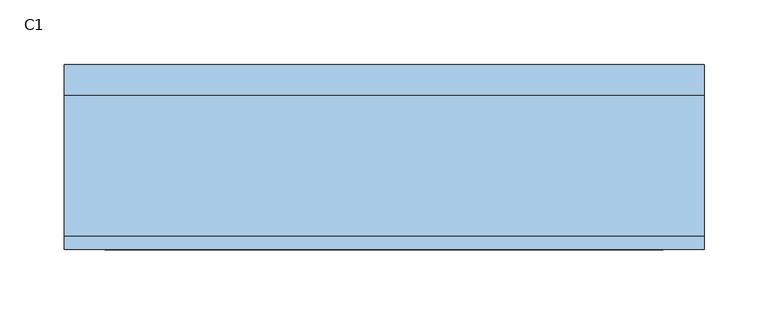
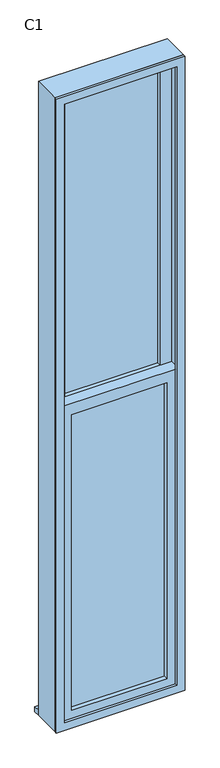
"""IFC4 building model written with IfcOpenShell, lengths in millimetres: window geometry, 上下拉窗1 : C1."""

from ifc_helpers import new_model, si_unit, frame, origin, place, context, project, spatial, polyline, outline, extrude, source, transform, mapped, element, save


def c1_1183a144(model_context):
    return source(origin(), model_context, "Body", "SweptSolid", [
        extrude(outline(polyline([(-185.0, 22.2615397), (185.0, 22.2615397), (185.0, 12.2615397), (-185.0, 12.2615397), (-185.0, 22.2615397)])), frame((0.0, 0.0, 2222.5), z_axis=(0.0, 0.0, 1.0), x_axis=(1.0, 0.0, 0.0)), (0.0, 0.0, 1.0), 1212.5),
        extrude(outline(polyline([(-185.0, -22.7384603), (185.0, -22.7384603), (185.0, -32.7384603), (-185.0, -32.7384603), (-185.0, -22.7384603)])), frame((0.0, 0.0, 965.0), z_axis=(0.0, 0.0, 1.0), x_axis=(1.0, 0.0, 0.0)), (0.0, 0.0, 1.0), 1212.5),
        extrude(outline(polyline([(2222.5, -230.0), (920.0, -230.0), (920.0, 230.0), (2222.5, 230.0), (2222.5, -230.0)]), holes=[polyline([(2177.5, -185.0), (2177.5, 185.0), (965.0, 185.0), (965.0, -185.0), (2177.5, -185.0)])]), frame((0.0, -50.2384603, 0.0), z_axis=(0.0, 1.0, 0.0), x_axis=(0.0, 0.0, 1.0)), (0.0, 0.0, 1.0), 45.0),
        extrude(outline(polyline([(3480.0, -230.0), (2177.5, -230.0), (2177.5, 230.0), (3480.0, 230.0), (3480.0, -230.0)]), holes=[polyline([(3435.0, -185.0), (3435.0, 185.0), (2222.5, 185.0), (2222.5, -185.0), (3435.0, -185.0)])]), frame((0.0, -5.2384603, 0.0), z_axis=(0.0, 1.0, 0.0), x_axis=(0.0, 0.0, 1.0)), (0.0, 0.0, 1.0), 45.0),
        extrude(outline(polyline([(3500.0, -250.0), (900.0, -250.0), (900.0, 250.0), (3500.0, 250.0), (3500.0, -250.0)]), holes=[polyline([(3468.0, -218.0), (3468.0, 218.0), (932.0, 218.0), (932.0, -218.0), (3468.0, -218.0)])]), frame((0.0, -60.2384603, 0.0), z_axis=(0.0, 1.0, 0.0), x_axis=(0.0, 0.0, 1.0)), (0.0, 0.0, 1.0), 10.0),
        extrude(outline(polyline([(3500.0, 250.0), (3500.0, -250.0), (900.0, -250.0), (900.0, 250.0), (3500.0, 250.0)]), holes=[polyline([(3480.0, 230.0), (920.0, 230.0), (920.0, -230.0), (3480.0, -230.0), (3480.0, 230.0)])]), frame((0.0, -50.2384603, 0.0), z_axis=(0.0, 1.0, 0.0), x_axis=(0.0, 0.0, 1.0)), (0.0, 0.0, 1.0), 110.0),
        extrude(outline(polyline([(-250.0, 84.7615397), (250.0, 84.7615397), (250.0, 59.7615397), (-250.0, 59.7615397), (-250.0, 84.7615397)])), frame((0.0, 0.0, 900.0), z_axis=(0.0, 0.0, 1.0), x_axis=(1.0, 0.0, 0.0)), (0.0, 0.0, 1.0), 20.0),
    ])


if __name__ == "__main__":
    model = new_model("IFC4")
    model_context = context("Model", 3, world=origin())
    ifc_project = project(units=[si_unit("LENGTHUNIT", "METRE", prefix="MILLI")], contexts=[model_context])
    site = spatial("IfcSite", under=ifc_project)
    building = spatial("IfcBuilding", under=site)
    placement = place(None, origin())
    c1_shape = c1_1183a144(model_context)
    element("IfcWindow", 1, ObjectType="上下拉窗1 : C1", at=placement, inside=building, context=model_context, shape_type="MappedRepresentation", body=[
        mapped(c1_shape, transform((0.0, 0.0, 0.0), x_axis=(1.0, 0.0, 0.0), y_axis=(0.0, 1.0, 0.0), z_axis=(0.0, 0.0, 1.0))),
    ])
    save(model, "model.ifc")
